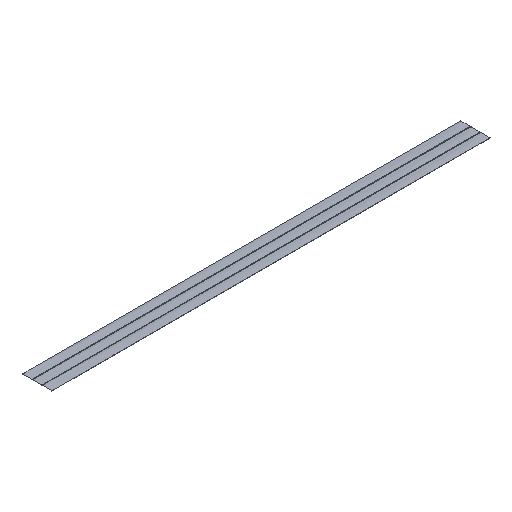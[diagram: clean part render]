
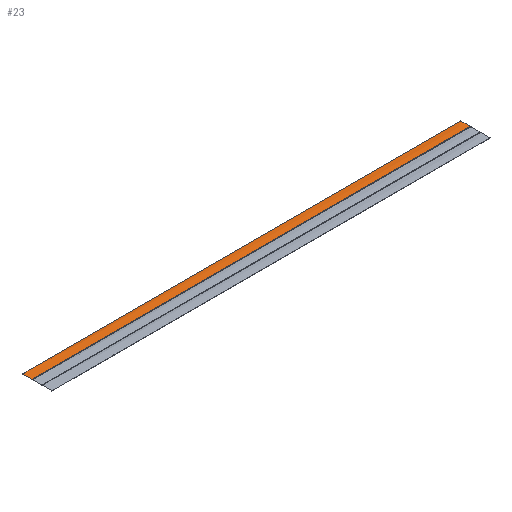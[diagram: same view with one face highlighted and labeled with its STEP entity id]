
A CAD part, isometric view. The second image highlights one B-rep face of the part: STEP entity #23.
In plain terms, the highlighted free-form (B-spline) face has degree [2, 1] with [17, 2] control points.
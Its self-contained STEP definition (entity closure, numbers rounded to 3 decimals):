
#23=ADVANCED_FACE('',(#26),#80,.T.);
#26=FACE_OUTER_BOUND('',#29,.T.);
#29=EDGE_LOOP('',(#38,#39,#40,#41));
#38=ORIENTED_EDGE('',*,*,#50,.T.);
#39=ORIENTED_EDGE('',*,*,#51,.T.);
#40=ORIENTED_EDGE('',*,*,#52,.T.);
#41=ORIENTED_EDGE('',*,*,#53,.T.);
#50=EDGE_CURVE('',#74,#75,#64,.T.);
#51=EDGE_CURVE('',#75,#76,#58,.T.);
#52=EDGE_CURVE('',#76,#77,#65,.T.);
#53=EDGE_CURVE('',#77,#74,#59,.T.);
#58=B_SPLINE_CURVE_WITH_KNOTS('',1,(#314,#315),.UNSPECIFIED.,.F.,.F.,(2,
2),(0.,6200.),.UNSPECIFIED.);
#59=B_SPLINE_CURVE_WITH_KNOTS('',1,(#333,#334),.UNSPECIFIED.,.F.,.F.,(2,
2),(-6200.,0.),.UNSPECIFIED.);
#64=(
BOUNDED_CURVE()
B_SPLINE_CURVE(2,(#297,#298,#299,#300,#301,#302,#303,#304,#305,#306,#307,
#308,#309,#310,#311,#312,#313),.UNSPECIFIED.,.F.,.F.)
B_SPLINE_CURVE_WITH_KNOTS((3,2,2,2,2,2,2,2,3),(457.51,458.993,
459.826,461.397,594.397,595.967,597.967,
599.538,606.138),.UNSPECIFIED.)
CURVE()
GEOMETRIC_REPRESENTATION_ITEM()
RATIONAL_B_SPLINE_CURVE((1.,0.737,1.,1.,1.,0.707,
1.,1.,1.,0.707,1.,1.,1.,0.707,1.,1.,1.))
REPRESENTATION_ITEM('')
);
#65=(
BOUNDED_CURVE()
B_SPLINE_CURVE(2,(#316,#317,#318,#319,#320,#321,#322,#323,#324,#325,#326,
#327,#328,#329,#330,#331,#332),.UNSPECIFIED.,.F.,.F.)
B_SPLINE_CURVE_WITH_KNOTS((3,2,2,2,2,2,2,2,3),(-606.138,-599.538,
-597.967,-595.967,-594.397,-461.397,
-459.826,-458.993,-457.51),.UNSPECIFIED.)
CURVE()
GEOMETRIC_REPRESENTATION_ITEM()
RATIONAL_B_SPLINE_CURVE((1.,1.,1.,0.707,1.,1.,1.,0.707,
1.,1.,1.,0.707,1.,1.,1.,0.737,1.))
REPRESENTATION_ITEM('')
);
#74=VERTEX_POINT('',#293);
#75=VERTEX_POINT('',#294);
#76=VERTEX_POINT('',#295);
#77=VERTEX_POINT('',#296);
#80=(
BOUNDED_SURFACE()
B_SPLINE_SURFACE(2,1,((#259,#260),(#261,#262),(#263,#264),(#265,#266),(#267,
#268),(#269,#270),(#271,#272),(#273,#274),(#275,#276),(#277,#278),(#279,
#280),(#281,#282),(#283,#284),(#285,#286),(#287,#288),(#289,#290),(#291,
#292)),.UNSPECIFIED.,.F.,.F.,.F.)
B_SPLINE_SURFACE_WITH_KNOTS((3,2,2,2,2,2,2,2,3),(2,2),(457.51,
458.993,459.826,461.397,594.397,595.967,
597.967,599.538,606.138),(0.,6200.),
 .UNSPECIFIED.)
GEOMETRIC_REPRESENTATION_ITEM()
RATIONAL_B_SPLINE_SURFACE(((1.,1.),(0.737,0.737),
(1.,1.),(1.,1.),(1.,1.),(0.707,0.707),(1.,1.),(1.,
1.),(1.,1.),(0.707,0.707),(1.,1.),(1.,1.),(1.,1.),
(0.707,0.707),(1.,1.),(1.,1.),(1.,1.)))
REPRESENTATION_ITEM('')
SURFACE()
);
#259=CARTESIAN_POINT('',(3100.,276.,0.));
#260=CARTESIAN_POINT('',(-3100.,276.,0.));
#261=CARTESIAN_POINT('',(3100.,273.718,0.2));
#262=CARTESIAN_POINT('',(-3100.,273.718,0.2));
#263=CARTESIAN_POINT('',(3100.,273.718,2.49));
#264=CARTESIAN_POINT('',(-3100.,273.718,2.49));
#265=CARTESIAN_POINT('',(3100.,273.718,2.902));
#266=CARTESIAN_POINT('',(-3100.,273.718,2.902));
#267=CARTESIAN_POINT('',(3100.,273.718,3.314));
#268=CARTESIAN_POINT('',(-3100.,273.718,3.314));
#269=CARTESIAN_POINT('',(3100.,273.718,5.814));
#270=CARTESIAN_POINT('',(-3100.,273.718,5.814));
#271=CARTESIAN_POINT('',(3100.,276.218,5.814));
#272=CARTESIAN_POINT('',(-3100.,276.218,5.814));
#273=CARTESIAN_POINT('',(3100.,342.718,5.814));
#274=CARTESIAN_POINT('',(-3100.,342.718,5.814));
#275=CARTESIAN_POINT('',(3100.,409.218,5.814));
#276=CARTESIAN_POINT('',(-3100.,409.218,5.814));
#277=CARTESIAN_POINT('',(3100.,411.718,5.814));
#278=CARTESIAN_POINT('',(-3100.,411.718,5.814));
#279=CARTESIAN_POINT('',(3100.,411.718,3.314));
#280=CARTESIAN_POINT('',(-3100.,411.718,3.314));
#281=CARTESIAN_POINT('',(3100.,411.718,2.314));
#282=CARTESIAN_POINT('',(-3100.,411.718,2.314));
#283=CARTESIAN_POINT('',(3100.,411.718,1.314));
#284=CARTESIAN_POINT('',(-3100.,411.718,1.314));
#285=CARTESIAN_POINT('',(3100.,411.718,-0.686));
#286=CARTESIAN_POINT('',(-3100.,411.718,-0.686));
#287=CARTESIAN_POINT('',(3100.,413.718,-0.686));
#288=CARTESIAN_POINT('',(-3100.,413.718,-0.686));
#289=CARTESIAN_POINT('',(3100.,417.018,-0.686));
#290=CARTESIAN_POINT('',(-3100.,417.018,-0.686));
#291=CARTESIAN_POINT('',(3100.,420.318,-0.686));
#292=CARTESIAN_POINT('',(-3100.,420.318,-0.686));
#293=CARTESIAN_POINT('',(3100.,276.,0.));
#294=CARTESIAN_POINT('',(3100.,420.318,-0.686));
#295=CARTESIAN_POINT('',(-3100.,420.318,-0.686));
#296=CARTESIAN_POINT('',(-3100.,276.,0.));
#297=CARTESIAN_POINT('',(3100.,276.,0.));
#298=CARTESIAN_POINT('',(3100.,273.718,0.2));
#299=CARTESIAN_POINT('',(3100.,273.718,2.49));
#300=CARTESIAN_POINT('',(3100.,273.718,2.902));
#301=CARTESIAN_POINT('',(3100.,273.718,3.314));
#302=CARTESIAN_POINT('',(3100.,273.718,5.814));
#303=CARTESIAN_POINT('',(3100.,276.218,5.814));
#304=CARTESIAN_POINT('',(3100.,342.718,5.814));
#305=CARTESIAN_POINT('',(3100.,409.218,5.814));
#306=CARTESIAN_POINT('',(3100.,411.718,5.814));
#307=CARTESIAN_POINT('',(3100.,411.718,3.314));
#308=CARTESIAN_POINT('',(3100.,411.718,2.314));
#309=CARTESIAN_POINT('',(3100.,411.718,1.314));
#310=CARTESIAN_POINT('',(3100.,411.718,-0.686));
#311=CARTESIAN_POINT('',(3100.,413.718,-0.686));
#312=CARTESIAN_POINT('',(3100.,417.018,-0.686));
#313=CARTESIAN_POINT('',(3100.,420.318,-0.686));
#314=CARTESIAN_POINT('',(3100.,420.318,-0.686));
#315=CARTESIAN_POINT('',(-3100.,420.318,-0.686));
#316=CARTESIAN_POINT('',(-3100.,420.318,-0.686));
#317=CARTESIAN_POINT('',(-3100.,417.018,-0.686));
#318=CARTESIAN_POINT('',(-3100.,413.718,-0.686));
#319=CARTESIAN_POINT('',(-3100.,411.718,-0.686));
#320=CARTESIAN_POINT('',(-3100.,411.718,1.314));
#321=CARTESIAN_POINT('',(-3100.,411.718,2.314));
#322=CARTESIAN_POINT('',(-3100.,411.718,3.314));
#323=CARTESIAN_POINT('',(-3100.,411.718,5.814));
#324=CARTESIAN_POINT('',(-3100.,409.218,5.814));
#325=CARTESIAN_POINT('',(-3100.,342.718,5.814));
#326=CARTESIAN_POINT('',(-3100.,276.218,5.814));
#327=CARTESIAN_POINT('',(-3100.,273.718,5.814));
#328=CARTESIAN_POINT('',(-3100.,273.718,3.314));
#329=CARTESIAN_POINT('',(-3100.,273.718,2.902));
#330=CARTESIAN_POINT('',(-3100.,273.718,2.49));
#331=CARTESIAN_POINT('',(-3100.,273.718,0.2));
#332=CARTESIAN_POINT('',(-3100.,276.,0.));
#333=CARTESIAN_POINT('',(-3100.,276.,0.));
#334=CARTESIAN_POINT('',(3100.,276.,0.));
